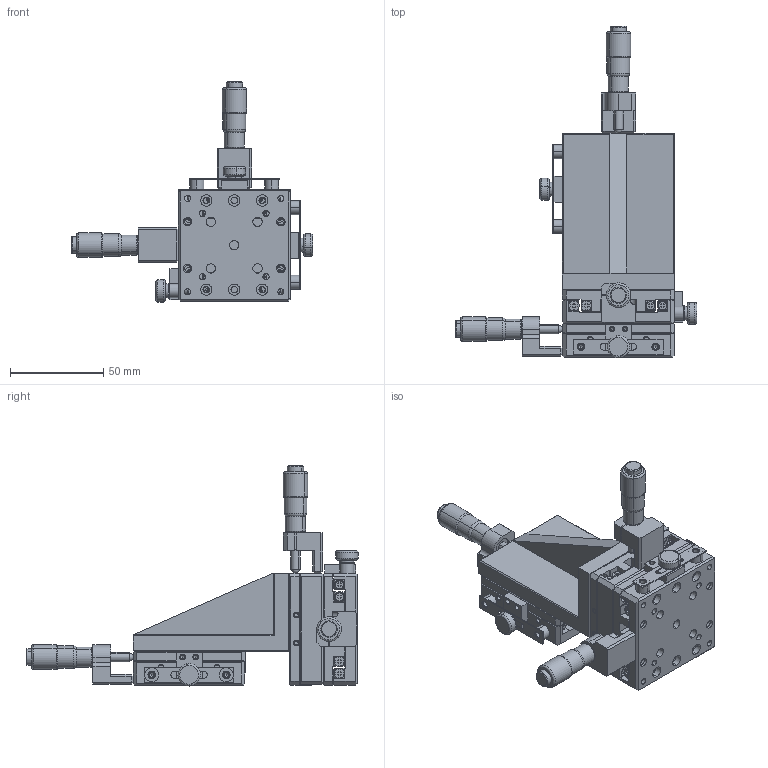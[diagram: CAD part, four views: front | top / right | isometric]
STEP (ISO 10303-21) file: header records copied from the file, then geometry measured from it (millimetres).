
FILE_DESCRIPTION (( 'STEP AP203' ), '1' );
FILE_NAME ('SH-303H.STEP', '2019-09-24T02:10:05', ( 'PC' ), ( 'Microsoft' ), 'SwSTEP 2.0', 'SolidWorks 2015', '' );
FILE_SCHEMA (( 'CONFIG_CONTROL_DESIGN' ));
Length unit declared in the file: millimetre
Products named in the file (9): SP110-13-60H峚煦芛釱; SP110-13-60H菁啣; SP110-13-60H怢醱; SP110-13-60H - 萵掛; SH-303H; 錨璃1; 峚煦芛; SP110-13-60CH癹弇忒謫; 絳寢V2-55
Assembly tree (13 placements, depth 3):
  SH-303H
    錨璃1
    SP110-13-60H - 萵掛  x3
      峚煦芛
      SP110-13-60CH癹弇忒謫
      絳寢V2-55
      SP110-13-60H峚煦芛釱
      SP110-13-60H菁啣
      SP110-13-60H怢醱
Bounding box: 129.4 x 177.9 x 117.9 mm (x, y, z)
Volume: 252260.9 mm3; surface area: 129440.3 mm2
Topology: 34 solids, 34 shells, 2396 faces, 6325 edges, 3991 vertices
Faces by surface type: plane 1286, cylinder 861, cone 198, bspline 48, sphere 3
Entity records: 17765 total; most frequent: CARTESIAN_POINT 3213, DIRECTION 2938, ORIENTED_EDGE 2700, EDGE_CURVE 1350, AXIS2_PLACEMENT_3D 1085, VERTEX_POINT 864, VECTOR 768, LINE 768
